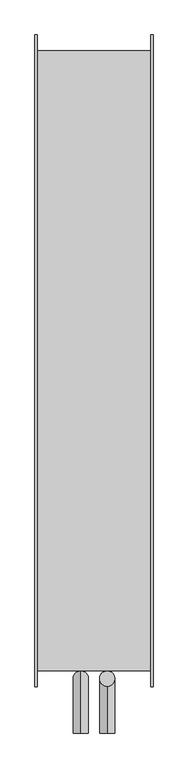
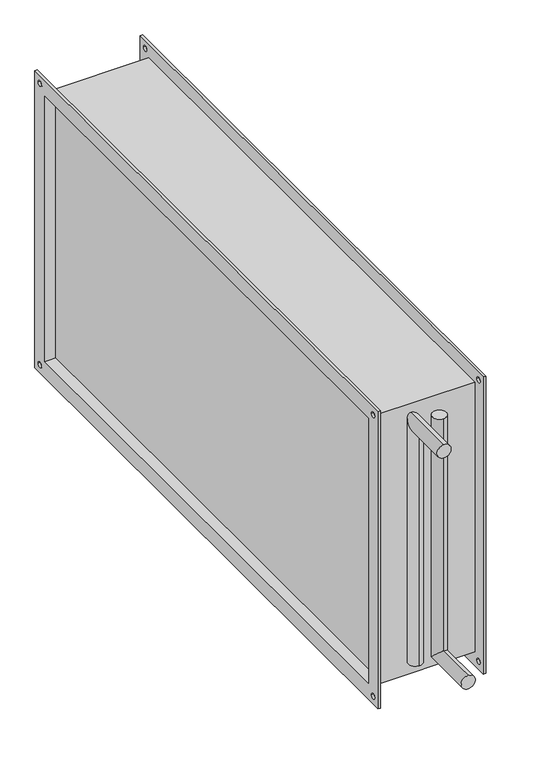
"""IFC4 building model written with IfcOpenShell, lengths in millimetres: proxy geometry, СВ_ВоздухонагревательВодяной_КанальныйПрямоугольный_200-1000_SPH-W : SPH-W-1000x500/3."""

from ifc_helpers import new_model, si_unit, frame, origin, place, context, project, spatial, polyline, circle_curve, ellipse_curve, source, transform, mapped, element, save
from ifc_brep_helpers import plane_surface, cylinder_surface, revolved_surface, advanced_brep


def mechanical_equipment_e2fa6b64(model_context):
    return source(origin(), model_context, "Body", "AdvancedBrep", [
        advanced_brep(
        [(21.5, -504.0, 225.0), (21.5, -529.0, 225.0), (21.5, -504.0, -237.5), (21.5, -529.0, -212.5), (21.5, -605.0, -237.5), (21.5, -605.0, -212.5)],
        [
            (0, 1, circle_curve(frame((21.5, -516.5, 225.0), z_axis=(0.0, 0.0, 1.0), x_axis=(0.0, -1.0, 0.0)), 12.5)),
            (1, 0, circle_curve(frame((21.5, -516.5, 225.0), z_axis=(0.0, 0.0, 1.0), x_axis=(0.0, -1.0, 0.0)), 12.5)),
            (0, 2),
            (2, 3, ellipse_curve(frame((21.5, -516.5, -225.0), z_axis=(0.0, 0.7071067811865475, 0.7071067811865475), x_axis=(0.0, -0.7071067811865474, 0.7071067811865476)), 17.6776695, 12.5)),
            (3, 1),
            (3, 2, ellipse_curve(frame((21.5, -516.5, -225.0), z_axis=(0.0, 0.7071067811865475, 0.7071067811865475), x_axis=(0.0, -0.7071067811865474, 0.7071067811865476)), 17.6776695, 12.5)),
            (4, 5, circle_curve(frame((21.5, -605.0, -225.0), z_axis=(0.0, -1.0, 0.0), x_axis=(0.0, 0.0, 1.0)), 12.5)),
            (5, 4, circle_curve(frame((21.5, -605.0, -225.0), z_axis=(0.0, -1.0, 0.0), x_axis=(0.0, 0.0, 1.0)), 12.5)),
            (2, 4),
            (5, 3),
        ],
        [
            plane_surface(frame((21.5, -516.5, 225.0), z_axis=(0.0, 0.0, 1.0), x_axis=(-1.0, 0.0, 0.0))),
            cylinder_surface(frame((21.5, -516.5, 225.0), z_axis=(0.0, 0.0, 1.0), x_axis=(0.0, -1.0, 0.0)), 12.5),
            plane_surface(frame((21.5, -605.0, -225.0), z_axis=(0.0, -1.0, 0.0), x_axis=(-1.0, 0.0, 0.0))),
            cylinder_surface(frame((21.5, -516.5, -225.0), z_axis=(0.0, 1.0, 0.0), x_axis=(0.0, 0.0, 1.0)), 12.5),
        ],
        [
            (0, [[1, 2]]),
            (1, [[-1, 3, 4, 5]]),
            (1, [[-2, -5, 6, -3]]),
            (2, [[7, 8]]),
            (3, [[-4, 9, -8, 10]]),
            (3, [[-6, -10, -7, -9]]),
        ],
    ),
        advanced_brep(
        [(-21.5, -504.0, -225.0), (-21.5, -529.0, -225.0), (-21.5, -504.0, 237.5), (-21.5, -529.0, 212.5), (-21.5, -605.0, 237.5), (-21.5, -605.0, 212.5)],
        [
            (0, 1, circle_curve(frame((-21.5, -516.5, -225.0), z_axis=(0.0, 0.0, -1.0), x_axis=(0.0, -1.0, 0.0)), 12.5)),
            (1, 0, circle_curve(frame((-21.5, -516.5, -225.0), z_axis=(0.0, 0.0, -1.0), x_axis=(0.0, -1.0, 0.0)), 12.5)),
            (0, 2),
            (2, 3, ellipse_curve(frame((-21.5, -516.5, 225.0), z_axis=(0.0, 0.7071067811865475, -0.7071067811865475), x_axis=(0.0, -0.7071067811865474, -0.7071067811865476)), 17.6776695, 12.5)),
            (3, 1),
            (3, 2, ellipse_curve(frame((-21.5, -516.5, 225.0), z_axis=(0.0, 0.7071067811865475, -0.7071067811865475), x_axis=(0.0, -0.7071067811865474, -0.7071067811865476)), 17.6776695, 12.5)),
            (4, 5, circle_curve(frame((-21.5, -605.0, 225.0), z_axis=(0.0, -1.0, 0.0), x_axis=(0.0, 0.0, -1.0)), 12.5)),
            (5, 4, circle_curve(frame((-21.5, -605.0, 225.0), z_axis=(0.0, -1.0, 0.0), x_axis=(0.0, 0.0, -1.0)), 12.5)),
            (2, 4),
            (5, 3),
        ],
        [
            plane_surface(frame((-21.5, -516.5, -225.0), z_axis=(0.0, 0.0, -1.0), x_axis=(1.0, 0.0, 0.0))),
            cylinder_surface(frame((-21.5, -516.5, -225.0), z_axis=(0.0, 0.0, -1.0), x_axis=(0.0, -1.0, 0.0)), 12.5),
            plane_surface(frame((-21.5, -605.0, 225.0), z_axis=(0.0, -1.0, 0.0), x_axis=(1.0, 0.0, 0.0))),
            cylinder_surface(frame((-21.5, -516.5, 225.0), z_axis=(0.0, 1.0, 0.0), x_axis=(0.0, 0.0, -1.0)), 12.5),
        ],
        [
            (0, [[1, 2]]),
            (1, [[-1, 3, 4, 5]]),
            (1, [[-2, -5, 6, -3]]),
            (2, [[7, 8]]),
            (3, [[-4, 9, -8, 10]]),
            (3, [[-6, -10, -7, -9]]),
        ],
    ),
        advanced_brep(
        [(-92.0, -504.0, 254.0), (-92.0, -504.0, -254.0), (92.0, -504.0, -254.0), (92.0, -504.0, 254.0), (-92.0, 504.0, -254.0), (92.0, 504.0, -254.0), (-92.0, 504.0, 254.0), (92.0, 504.0, 254.0), (76.0, 500.0, -250.0), (76.0, 500.0, 250.0), (76.0, -500.0, 250.0), (76.0, -500.0, -250.0), (-76.0, -500.0, 250.0), (-76.0, 500.0, 250.0), (-76.0, 500.0, -250.0), (-76.0, -500.0, -250.0), (-96.0, -530.0, 280.0), (-96.0, 530.0, 280.0), (-96.0, 530.0, -280.0), (-96.0, -530.0, -280.0), (-96.0, -500.0, 250.0), (-96.0, -500.0, -250.0), (-96.0, 500.0, -250.0), (-96.0, 500.0, 250.0), (-96.0, 510.0, 265.0), (-96.0, 520.0, 265.0), (-96.0, -520.0, 265.0), (-96.0, -510.0, 265.0), (-96.0, -520.0, -265.0), (-96.0, -510.0, -265.0), (-96.0, 510.0, -265.0), (-96.0, 520.0, -265.0), (-92.0, -530.0, 280.0), (-92.0, -530.0, -280.0), (-92.0, 530.0, -280.0), (-92.0, 530.0, 280.0), (-92.0, 520.0, 265.0), (-92.0, 510.0, 265.0), (-92.0, -510.0, 265.0), (-92.0, -520.0, 265.0), (-92.0, -510.0, -265.0), (-92.0, -520.0, -265.0), (-92.0, 520.0, -265.0), (-92.0, 510.0, -265.0), (92.0, 530.0, 280.0), (92.0, 530.0, -280.0), (92.0, -530.0, -280.0), (92.0, -530.0, 280.0), (92.0, 510.0, 265.0), (92.0, 520.0, 265.0), (92.0, -520.0, 265.0), (92.0, -510.0, 265.0), (92.0, -520.0, -265.0), (92.0, -510.0, -265.0), (92.0, 510.0, -265.0), (92.0, 520.0, -265.0), (96.0, 530.0, 280.0), (96.0, -530.0, 280.0), (96.0, -530.0, -280.0), (96.0, 530.0, -280.0), (96.0, 500.0, 250.0), (96.0, 500.0, -250.0), (96.0, -500.0, -250.0), (96.0, -500.0, 250.0), (96.0, 520.0, 265.0), (96.0, 510.0, 265.0), (96.0, -510.0, 265.0), (96.0, -520.0, 265.0), (96.0, -510.0, -265.0), (96.0, -520.0, -265.0), (96.0, 520.0, -265.0), (96.0, 510.0, -265.0)],
        [
            (0, 1),
            (1, 2),
            (2, 3),
            (3, 0),
            (1, 4),
            (4, 5),
            (5, 2),
            (4, 6),
            (6, 7),
            (7, 5),
            (6, 0),
            (3, 7),
            (8, 9),
            (9, 10),
            (10, 11),
            (11, 8),
            (12, 13),
            (13, 14),
            (14, 15),
            (15, 12),
            (16, 17),
            (17, 18),
            (18, 19),
            (19, 16),
            (20, 21),
            (21, 22),
            (22, 23),
            (23, 20),
            (24, 25, circle_curve(frame((-96.0, 515.0, 265.0), z_axis=(1.0, 0.0, 0.0), x_axis=(0.0, -1.0, 0.0)), 5.0)),
            (25, 24, circle_curve(frame((-96.0, 515.0, 265.0), z_axis=(1.0, 0.0, 0.0), x_axis=(0.0, -1.0, 0.0)), 5.0)),
            (26, 27, circle_curve(frame((-96.0, -515.0, 265.0), z_axis=(1.0, 0.0, 0.0), x_axis=(0.0, -1.0, 0.0)), 5.0)),
            (27, 26, circle_curve(frame((-96.0, -515.0, 265.0), z_axis=(1.0, 0.0, 0.0), x_axis=(0.0, -1.0, 0.0)), 5.0)),
            (28, 29, circle_curve(frame((-96.0, -515.0, -265.0), z_axis=(1.0, 0.0, 0.0), x_axis=(0.0, -1.0, 0.0)), 5.0)),
            (29, 28, circle_curve(frame((-96.0, -515.0, -265.0), z_axis=(1.0, 0.0, 0.0), x_axis=(0.0, -1.0, 0.0)), 5.0)),
            (30, 31, circle_curve(frame((-96.0, 515.0, -265.0), z_axis=(1.0, 0.0, 0.0), x_axis=(0.0, -1.0, 0.0)), 5.0)),
            (31, 30, circle_curve(frame((-96.0, 515.0, -265.0), z_axis=(1.0, 0.0, 0.0), x_axis=(0.0, -1.0, 0.0)), 5.0)),
            (32, 33),
            (33, 34),
            (34, 35),
            (35, 32),
            (36, 37, circle_curve(frame((-92.0, 515.0, 265.0), z_axis=(-1.0, 0.0, 0.0), x_axis=(0.0, -1.0, 0.0)), 5.0)),
            (37, 36, circle_curve(frame((-92.0, 515.0, 265.0), z_axis=(-1.0, 0.0, 0.0), x_axis=(0.0, -1.0, 0.0)), 5.0)),
            (38, 39, circle_curve(frame((-92.0, -515.0, 265.0), z_axis=(-1.0, 0.0, 0.0), x_axis=(0.0, -1.0, 0.0)), 5.0)),
            (39, 38, circle_curve(frame((-92.0, -515.0, 265.0), z_axis=(-1.0, 0.0, 0.0), x_axis=(0.0, -1.0, 0.0)), 5.0)),
            (40, 41, circle_curve(frame((-92.0, -515.0, -265.0), z_axis=(-1.0, 0.0, 0.0), x_axis=(0.0, -1.0, 0.0)), 5.0)),
            (41, 40, circle_curve(frame((-92.0, -515.0, -265.0), z_axis=(-1.0, 0.0, 0.0), x_axis=(0.0, -1.0, 0.0)), 5.0)),
            (42, 43, circle_curve(frame((-92.0, 515.0, -265.0), z_axis=(-1.0, 0.0, 0.0), x_axis=(0.0, -1.0, 0.0)), 5.0)),
            (43, 42, circle_curve(frame((-92.0, 515.0, -265.0), z_axis=(-1.0, 0.0, 0.0), x_axis=(0.0, -1.0, 0.0)), 5.0)),
            (19, 33),
            (32, 16),
            (18, 34),
            (17, 35),
            (44, 45),
            (45, 46),
            (46, 47),
            (47, 44),
            (48, 49, circle_curve(frame((92.0, 515.0, 265.0), z_axis=(1.0, 0.0, 0.0), x_axis=(0.0, -1.0, 0.0)), 5.0)),
            (49, 48, circle_curve(frame((92.0, 515.0, 265.0), z_axis=(1.0, 0.0, 0.0), x_axis=(0.0, -1.0, 0.0)), 5.0)),
            (50, 51, circle_curve(frame((92.0, -515.0, 265.0), z_axis=(1.0, 0.0, 0.0), x_axis=(0.0, -1.0, 0.0)), 5.0)),
            (51, 50, circle_curve(frame((92.0, -515.0, 265.0), z_axis=(1.0, 0.0, 0.0), x_axis=(0.0, -1.0, 0.0)), 5.0)),
            (52, 53, circle_curve(frame((92.0, -515.0, -265.0), z_axis=(1.0, 0.0, 0.0), x_axis=(0.0, -1.0, 0.0)), 5.0)),
            (53, 52, circle_curve(frame((92.0, -515.0, -265.0), z_axis=(1.0, 0.0, 0.0), x_axis=(0.0, -1.0, 0.0)), 5.0)),
            (54, 55, circle_curve(frame((92.0, 515.0, -265.0), z_axis=(1.0, 0.0, 0.0), x_axis=(0.0, -1.0, 0.0)), 5.0)),
            (55, 54, circle_curve(frame((92.0, 515.0, -265.0), z_axis=(1.0, 0.0, 0.0), x_axis=(0.0, -1.0, 0.0)), 5.0)),
            (56, 57),
            (57, 58),
            (58, 59),
            (59, 56),
            (60, 61),
            (61, 62),
            (62, 63),
            (63, 60),
            (64, 65, circle_curve(frame((96.0, 515.0, 265.0), z_axis=(-1.0, 0.0, 0.0), x_axis=(0.0, -1.0, 0.0)), 5.0)),
            (65, 64, circle_curve(frame((96.0, 515.0, 265.0), z_axis=(-1.0, 0.0, 0.0), x_axis=(0.0, -1.0, 0.0)), 5.0)),
            (66, 67, circle_curve(frame((96.0, -515.0, 265.0), z_axis=(-1.0, 0.0, 0.0), x_axis=(0.0, -1.0, 0.0)), 5.0)),
            (67, 66, circle_curve(frame((96.0, -515.0, 265.0), z_axis=(-1.0, 0.0, 0.0), x_axis=(0.0, -1.0, 0.0)), 5.0)),
            (68, 69, circle_curve(frame((96.0, -515.0, -265.0), z_axis=(-1.0, 0.0, 0.0), x_axis=(0.0, -1.0, 0.0)), 5.0)),
            (69, 68, circle_curve(frame((96.0, -515.0, -265.0), z_axis=(-1.0, 0.0, 0.0), x_axis=(0.0, -1.0, 0.0)), 5.0)),
            (70, 71, circle_curve(frame((96.0, 515.0, -265.0), z_axis=(-1.0, 0.0, 0.0), x_axis=(0.0, -1.0, 0.0)), 5.0)),
            (71, 70, circle_curve(frame((96.0, 515.0, -265.0), z_axis=(-1.0, 0.0, 0.0), x_axis=(0.0, -1.0, 0.0)), 5.0)),
            (47, 57),
            (56, 44),
            (46, 58),
            (45, 59),
            (23, 13),
            (12, 20),
            (22, 14),
            (21, 15),
            (60, 9),
            (8, 61),
            (11, 62),
            (10, 63),
            (36, 25),
            (24, 37),
            (64, 49),
            (48, 65),
            (38, 27),
            (26, 39),
            (66, 51),
            (50, 67),
            (40, 29),
            (28, 41),
            (68, 53),
            (52, 69),
            (42, 31),
            (30, 43),
            (70, 55),
            (54, 71),
        ],
        [
            plane_surface(frame((-76.0, -504.0, 254.0), z_axis=(0.0, -1.0, 0.0), x_axis=(-1.0, 0.0, 0.0))),
            plane_surface(frame((-76.0, -504.0, -254.0), z_axis=(0.0, 0.0, -1.0), x_axis=(-1.0, 0.0, 0.0))),
            plane_surface(frame((-76.0, 504.0, -254.0), z_axis=(0.0, 1.0, 0.0), x_axis=(-1.0, 0.0, 0.0))),
            plane_surface(frame((-76.0, 504.0, 254.0), z_axis=(0.0, 0.0, 1.0), x_axis=(-1.0, 0.0, 0.0))),
            plane_surface(frame((76.0, -504.0, 254.0), z_axis=(1.0, 0.0, 0.0), x_axis=(0.0, 0.0, -1.0))),
            plane_surface(frame((-76.0, -504.0, 254.0), z_axis=(-1.0, 0.0, 0.0), x_axis=(0.0, 0.0, 1.0))),
            plane_surface(frame((-96.0, -530.0, 280.0), z_axis=(-1.0, 0.0, 0.0), x_axis=(0.0, 0.0, 1.0))),
            plane_surface(frame((-92.0, -530.0, 280.0), z_axis=(1.0, 0.0, 0.0), x_axis=(0.0, 0.0, -1.0))),
            plane_surface(frame((-92.0, -530.0, 280.0), z_axis=(0.0, -1.0, 0.0), x_axis=(-1.0, 0.0, 0.0))),
            plane_surface(frame((-92.0, -530.0, -280.0), z_axis=(0.0, 0.0, -1.0), x_axis=(-1.0, 0.0, 0.0))),
            plane_surface(frame((-92.0, 530.0, -280.0), z_axis=(0.0, 1.0, 0.0), x_axis=(-1.0, 0.0, 0.0))),
            plane_surface(frame((-92.0, 530.0, 280.0), z_axis=(0.0, 0.0, 1.0), x_axis=(-1.0, 0.0, 0.0))),
            plane_surface(frame((92.0, 500.0, -250.0), z_axis=(-1.0, 0.0, 0.0), x_axis=(0.0, 0.0, 1.0))),
            plane_surface(frame((96.0, 500.0, -250.0), z_axis=(1.0, 0.0, 0.0), x_axis=(0.0, 0.0, -1.0))),
            plane_surface(frame((96.0, 530.0, 280.0), z_axis=(0.0, 0.0, 1.0), x_axis=(-1.0, 0.0, 0.0))),
            plane_surface(frame((96.0, -530.0, 280.0), z_axis=(0.0, -1.0, 0.0), x_axis=(-1.0, 0.0, 0.0))),
            plane_surface(frame((96.0, -530.0, -280.0), z_axis=(0.0, 0.0, -1.0), x_axis=(-1.0, 0.0, 0.0))),
            plane_surface(frame((96.0, 530.0, -280.0), z_axis=(0.0, 1.0, 0.0), x_axis=(-1.0, 0.0, 0.0))),
            plane_surface(frame((-92.0, -500.0, 250.0), z_axis=(0.0, 0.0, -1.0), x_axis=(-1.0, 0.0, 0.0))),
            plane_surface(frame((-92.0, 500.0, 250.0), z_axis=(0.0, -1.0, 0.0), x_axis=(-1.0, 0.0, 0.0))),
            plane_surface(frame((-92.0, 500.0, -250.0), z_axis=(0.0, 0.0, 1.0), x_axis=(-1.0, 0.0, 0.0))),
            plane_surface(frame((-92.0, -500.0, -250.0), z_axis=(0.0, 1.0, 0.0), x_axis=(-1.0, 0.0, 0.0))),
            plane_surface(frame((96.0, 500.0, 250.0), z_axis=(0.0, -1.0, 0.0), x_axis=(-1.0, 0.0, 0.0))),
            plane_surface(frame((96.0, 500.0, -250.0), z_axis=(0.0, 0.0, 1.0), x_axis=(-1.0, 0.0, 0.0))),
            plane_surface(frame((96.0, -500.0, -250.0), z_axis=(0.0, 1.0, 0.0), x_axis=(-1.0, 0.0, 0.0))),
            plane_surface(frame((96.0, -500.0, 250.0), z_axis=(0.0, 0.0, -1.0), x_axis=(-1.0, 0.0, 0.0))),
            revolved_surface(polyline([(-96.0, 510.0, 265.0), (-92.0, 510.0, 265.0)]), (96.0, 515.0, 265.0), (-1.0, 0.0, 0.0)),
            revolved_surface(polyline([(92.0, 510.0, 265.0), (96.0, 510.0, 265.0)]), (96.0, 515.0, 265.0), (-1.0, 0.0, 0.0)),
            revolved_surface(polyline([(-96.0, -520.0, 265.0), (-92.0, -520.0, 265.0)]), (21.5, -515.0, 265.0), (-1.0, 0.0, 0.0)),
            revolved_surface(polyline([(92.0, -520.0, 265.0), (96.0, -520.0, 265.0)]), (21.5, -515.0, 265.0), (-1.0, 0.0, 0.0)),
            revolved_surface(polyline([(-96.0, -520.0, -265.0), (-92.0, -520.0, -265.0)]), (21.5, -515.0, -265.0), (-1.0, 0.0, 0.0)),
            revolved_surface(polyline([(92.0, -520.0, -265.0), (96.0, -520.0, -265.0)]), (21.5, -515.0, -265.0), (-1.0, 0.0, 0.0)),
            revolved_surface(polyline([(-96.0, 510.0, -265.0), (-92.0, 510.0, -265.0)]), (21.5, 515.0, -265.0), (-1.0, 0.0, 0.0)),
            revolved_surface(polyline([(92.0, 510.0, -265.0), (96.0, 510.0, -265.0)]), (21.5, 515.0, -265.0), (-1.0, 0.0, 0.0)),
        ],
        [
            (0, [[1, 2, 3, 4]]),
            (1, [[-2, 5, 6, 7]]),
            (2, [[-6, 8, 9, 10]]),
            (3, [[-9, 11, -4, 12]]),
            (4, [[13, 14, 15, 16]]),
            (5, [[17, 18, 19, 20]]),
            (6, [[21, 22, 23, 24], [25, 26, 27, 28], [29, 30], [31, 32], [33, 34], [35, 36]]),
            (7, [[37, 38, 39, 40], [-1, -11, -8, -5], [41, 42], [43, 44], [45, 46], [47, 48]]),
            (8, [[-24, 49, -37, 50]]),
            (9, [[-23, 51, -38, -49]]),
            (10, [[-22, 52, -39, -51]]),
            (11, [[-21, -50, -40, -52]]),
            (12, [[53, 54, 55, 56], [-3, -7, -10, -12], [57, 58], [59, 60], [61, 62], [63, 64]]),
            (13, [[65, 66, 67, 68], [69, 70, 71, 72], [73, 74], [75, 76], [77, 78], [79, 80]]),
            (14, [[-56, 81, -65, 82]]),
            (15, [[-55, 83, -66, -81]]),
            (16, [[-54, 84, -67, -83]]),
            (17, [[-53, -82, -68, -84]]),
            (18, [[-28, 85, -17, 86]]),
            (19, [[-27, 87, -18, -85]]),
            (20, [[-26, 88, -19, -87]]),
            (21, [[-25, -86, -20, -88]]),
            (22, [[-69, 89, -13, 90]]),
            (23, [[-70, -90, -16, 91]]),
            (24, [[-71, -91, -15, 92]]),
            (25, [[-89, -72, -92, -14]]),
            (26, [[93, -29, 94, -41]]),
            (27, [[95, -57, 96, -73]]),
            (26, [[-93, -42, -94, -30]]),
            (27, [[-95, -74, -96, -58]]),
            (28, [[97, -31, 98, -43]]),
            (29, [[99, -59, 100, -75]]),
            (28, [[-97, -44, -98, -32]]),
            (29, [[-99, -76, -100, -60]]),
            (30, [[101, -33, 102, -45]]),
            (31, [[103, -61, 104, -77]]),
            (30, [[-101, -46, -102, -34]]),
            (31, [[-103, -78, -104, -62]]),
            (32, [[105, -35, 106, -47]]),
            (33, [[107, -63, 108, -79]]),
            (32, [[-105, -48, -106, -36]]),
            (33, [[-107, -80, -108, -64]]),
        ],
    ),
    ])


if __name__ == "__main__":
    model = new_model("IFC4")
    model_context = context("Model", 3, world=origin())
    ifc_project = project(units=[si_unit("LENGTHUNIT", "METRE", prefix="MILLI")], contexts=[model_context])
    site = spatial("IfcSite", under=ifc_project)
    building = spatial("IfcBuilding", under=site)
    placement = place(None, origin())
    mechanical_equipment_shape = mechanical_equipment_e2fa6b64(model_context)
    element("IfcBuildingElementProxy", 1, Name="СВ_ВоздухонагревательВодяной_КанальныйПрямоугольный_200-1000_SPH-W : SPH-W-1000x500/3", ObjectType="СВ_ВоздухонагревательВодяной_КанальныйПрямоугольный_200-1000_SPH-W : SPH-W-1000x500/3", at=placement, inside=building, context=model_context, shape_type="MappedRepresentation", body=[
        mapped(mechanical_equipment_shape, transform((0.0, 0.0, 0.0), x_axis=(1.0, 0.0, 0.0), y_axis=(0.0, 1.0, 0.0), z_axis=(0.0, 0.0, 1.0))),
    ])
    save(model, "model.ifc")
